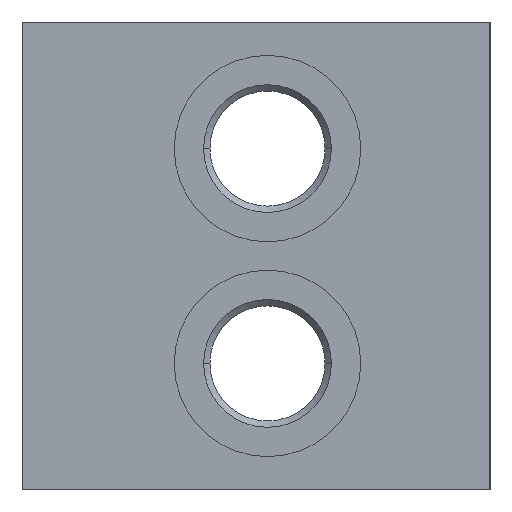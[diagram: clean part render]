
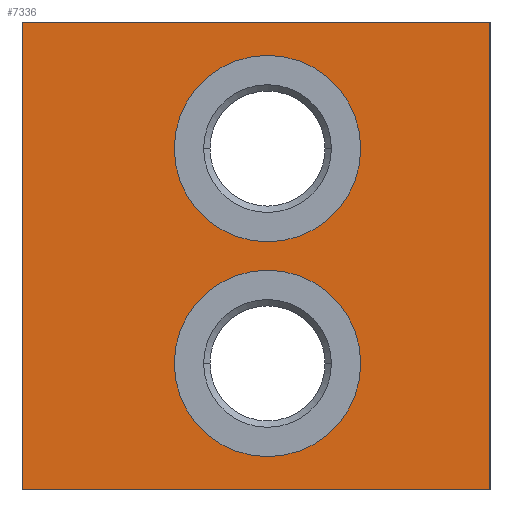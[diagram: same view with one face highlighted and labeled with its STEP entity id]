
A CAD part, left-side view. The second image highlights one B-rep face of the part: STEP entity #7336.
In plain terms, the highlighted planar face has unit normal (-1, 0, 0).
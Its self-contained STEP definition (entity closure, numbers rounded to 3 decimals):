
#25=DIRECTION('',(0.,-1.,0.));
#26=VECTOR('',#25,61.);
#27=CARTESIAN_POINT('',(0.,61.,0.));
#28=LINE('',#27,#26);
#197=DIRECTION('',(0.,0.,-1.));
#198=VECTOR('',#197,61.);
#199=CARTESIAN_POINT('',(0.,0.,0.));
#200=LINE('',#199,#198);
#1533=DIRECTION('',(0.,0.,-1.));
#1534=VECTOR('',#1533,61.);
#1535=CARTESIAN_POINT('',(0.,61.,0.));
#1536=LINE('',#1535,#1534);
#1537=CARTESIAN_POINT('',(0.,29.,-44.5));
#1538=DIRECTION('',(1.,0.,0.));
#1539=DIRECTION('',(0.,-1.,0.));
#1540=AXIS2_PLACEMENT_3D('',#1537,#1538,#1539);
#1542=CARTESIAN_POINT('',(0.,29.,-44.5));
#1543=DIRECTION('',(1.,0.,0.));
#1544=DIRECTION('',(0.,1.,0.));
#1545=AXIS2_PLACEMENT_3D('',#1542,#1543,#1544);
#1547=CARTESIAN_POINT('',(0.,29.,-16.5));
#1548=DIRECTION('',(1.,0.,0.));
#1549=DIRECTION('',(0.,-1.,0.));
#1550=AXIS2_PLACEMENT_3D('',#1547,#1548,#1549);
#1552=CARTESIAN_POINT('',(0.,29.,-16.5));
#1553=DIRECTION('',(1.,0.,0.));
#1554=DIRECTION('',(0.,1.,0.));
#1555=AXIS2_PLACEMENT_3D('',#1552,#1553,#1554);
#1569=DIRECTION('',(0.,-1.,0.));
#1570=VECTOR('',#1569,61.);
#1571=CARTESIAN_POINT('',(0.,61.,-61.));
#1572=LINE('',#1571,#1570);
#5683=CARTESIAN_POINT('',(0.,0.,0.));
#5685=VERTEX_POINT('',#5683);
#5689=CARTESIAN_POINT('',(0.,61.,0.));
#5690=VERTEX_POINT('',#5689);
#5691=CARTESIAN_POINT('',(0.,0.,-61.));
#5693=VERTEX_POINT('',#5691);
#5697=CARTESIAN_POINT('',(0.,61.,-61.));
#5698=VERTEX_POINT('',#5697);
#5711=CARTESIAN_POINT('',(0.,16.85,-44.5));
#5712=CARTESIAN_POINT('',(0.,41.15,-44.5));
#5713=VERTEX_POINT('',#5711);
#5714=VERTEX_POINT('',#5712);
#5727=CARTESIAN_POINT('',(0.,16.85,-16.5));
#5728=CARTESIAN_POINT('',(0.,41.15,-16.5));
#5729=VERTEX_POINT('',#5727);
#5730=VERTEX_POINT('',#5728);
#7312=CARTESIAN_POINT('',(0.,61.,0.));
#7313=DIRECTION('',(-1.,0.,0.));
#7314=DIRECTION('',(0.,-1.,0.));
#7315=AXIS2_PLACEMENT_3D('',#7312,#7313,#7314);
#7316=PLANE('',#7315);
#7317=ORIENTED_EDGE('',*,*,#6744,.T.);
#7318=ORIENTED_EDGE('',*,*,#6859,.T.);
#7320=ORIENTED_EDGE('',*,*,#7319,.F.);
#7321=ORIENTED_EDGE('',*,*,#6908,.F.);
#7322=EDGE_LOOP('',(#7317,#7318,#7320,#7321));
#7323=FACE_OUTER_BOUND('',#7322,.F.);
#7325=ORIENTED_EDGE('',*,*,#7324,.F.);
#7327=ORIENTED_EDGE('',*,*,#7326,.F.);
#7328=EDGE_LOOP('',(#7325,#7327));
#7329=FACE_BOUND('',#7328,.F.);
#7331=ORIENTED_EDGE('',*,*,#7330,.F.);
#7333=ORIENTED_EDGE('',*,*,#7332,.F.);
#7334=EDGE_LOOP('',(#7331,#7333));
#7335=FACE_BOUND('',#7334,.F.);
#1541=CIRCLE('',#1540,12.15);
#1546=CIRCLE('',#1545,12.15);
#1551=CIRCLE('',#1550,12.15);
#1556=CIRCLE('',#1555,12.15);
#6744=EDGE_CURVE('',#5690,#5685,#28,.T.);
#6859=EDGE_CURVE('',#5685,#5693,#200,.T.);
#6908=EDGE_CURVE('',#5690,#5698,#1536,.T.);
#7319=EDGE_CURVE('',#5698,#5693,#1572,.T.);
#7324=EDGE_CURVE('',#5713,#5714,#1541,.T.);
#7326=EDGE_CURVE('',#5714,#5713,#1546,.T.);
#7330=EDGE_CURVE('',#5729,#5730,#1551,.T.);
#7332=EDGE_CURVE('',#5730,#5729,#1556,.T.);
#7336=ADVANCED_FACE('',(#7323,#7329,#7335),#7316,.T.);
